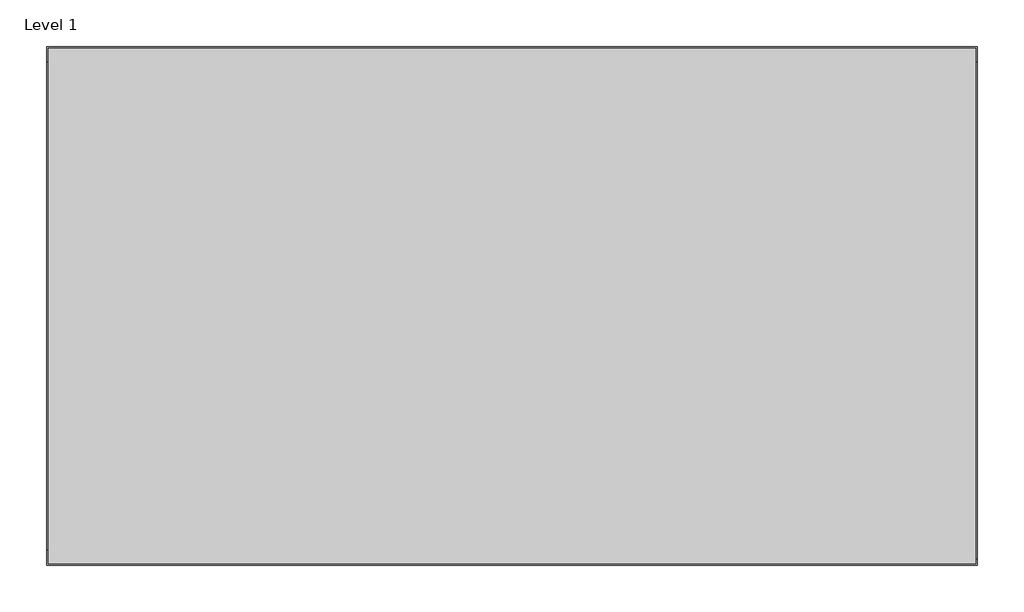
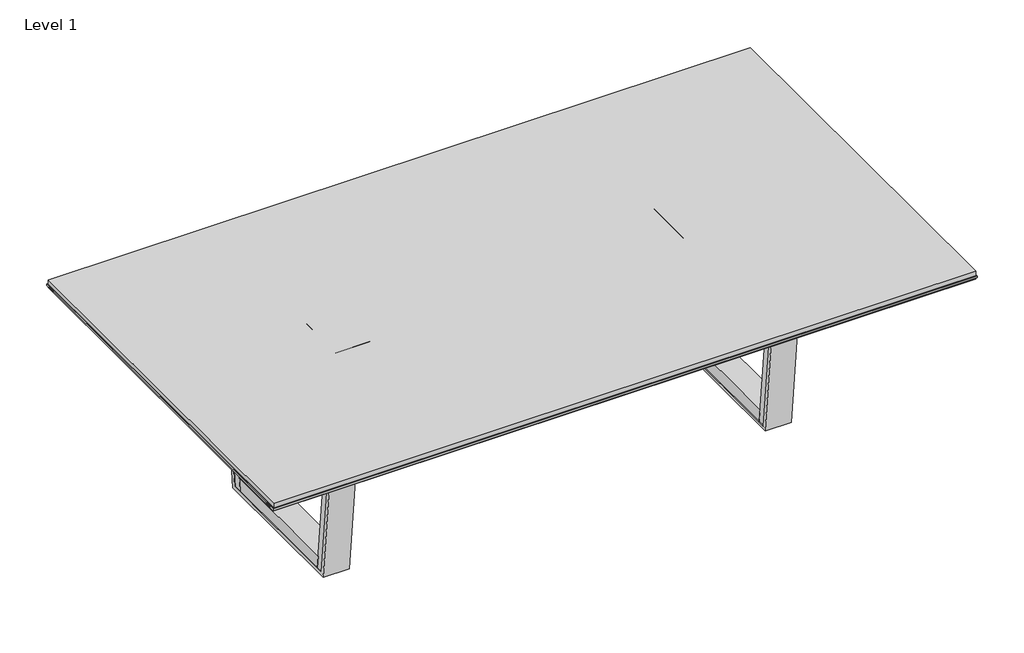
# One storey, incomplete: 9 proxies.
"""IFC4 building model written with IfcOpenShell, lengths in millimetres."""

from ifc_helpers import new_model, si_unit, origin, place, context, project, spatial, transform, mapped, element, save
from components import generic_models_12575e35, generic_models_db46a843, generic_models_fdab1e62, generic_models_194ffc6f, generic_models_caa54cf2

model = new_model("IFC4")

# Units and contexts
model_context = context("Model", 3, world=origin())
ifc_project = project(units=[si_unit("LENGTHUNIT", "METRE", prefix="MILLI")], contexts=[model_context])

# Site, building, storey
site = spatial("IfcSite", under=ifc_project)
building = spatial("IfcBuilding", under=site)
storey = spatial("IfcBuildingStorey", under=building, Name="Level 1", Elevation=0.0)

# Proxies
placement = place(None, origin())
generic_models_shape = generic_models_12575e35(model_context)
element("IfcBuildingElementProxy", 1, Name="IMPRESS^TABLE 7_60x108 LOOP W CHASE-END KEEL CAP", ObjectType="IMPRESS^TABLE 7_60x108 LOOP W CHASE-END KEEL CAP", at=placement, inside=storey, context=model_context, shape_type="MappedRepresentation", body=[
    mapped(generic_models_shape, transform((2266.95, -1126.1105294, 0.0), x_axis=(0.0, 1.0, 0.0), y_axis=(0.0, 0.0, 1.0), z_axis=(1.0, 0.0, 0.0))),
])
element("IfcBuildingElementProxy", 2, Name="IMPRESS^TABLE 7_60x108 LOOP W CHASE-END KEEL CAP", ObjectType="IMPRESS^TABLE 7_60x108 LOOP W CHASE-END KEEL CAP", at=placement, inside=storey, context=model_context, shape_type="MappedRepresentation", body=[
    mapped(generic_models_shape, transform((457.2, -1126.1105294, 0.0), x_axis=(0.0, 1.0, 0.0), y_axis=(0.0, 0.0, 1.0), z_axis=(1.0, 0.0, 0.0))),
])
generic_models_2_shape = generic_models_db46a843(model_context)
element("IfcBuildingElementProxy", 3, Name="IMPRESS^TABLE 7_60x108 LOOP W CHASE-KEEL", ObjectType="IMPRESS^TABLE 7_60x108 LOOP W CHASE-KEEL", at=placement, inside=storey, context=model_context, shape_type="MappedRepresentation", body=[
    mapped(generic_models_2_shape, transform((539.75, -455.0394706, -101.6), x_axis=(1.0, 0.0, 0.0), y_axis=(0.0, 0.0, 1.0), z_axis=(0.0, -1.0, 0.0))),
])
element("IfcBuildingElementProxy", 4, Name="IMPRESS^TABLE 7_60x108 LOOP W CHASE-KEEL", ObjectType="IMPRESS^TABLE 7_60x108 LOOP W CHASE-KEEL", at=placement, inside=storey, context=model_context, shape_type="MappedRepresentation", body=[
    mapped(generic_models_2_shape, transform((539.75, -1037.2105294, -101.6), x_axis=(1.0, 0.0, 0.0), y_axis=(0.0, 0.0, 1.0), z_axis=(0.0, -1.0, 0.0))),
])
generic_models_3_shape = generic_models_fdab1e62(model_context)
element("IfcBuildingElementProxy", 5, Name="IMPRESS^TABLE 7_24in BASE-PARTS SOLID", ObjectType="IMPRESS^TABLE 7_24in BASE-PARTS SOLID", at=placement, inside=storey, context=model_context, shape_type="MappedRepresentation", body=[
    mapped(generic_models_3_shape, transform((558.8, -457.2, -685.8), x_axis=(0.0, -1.0, 0.0), y_axis=(0.0, 0.0, 1.0), z_axis=(-1.0, 0.0, 0.0))),
])
generic_models_4_shape = generic_models_194ffc6f(model_context)
element("IfcBuildingElementProxy", 6, Name="IMPRESS^TABLE 7_60x108 LOOP W CHASE-TOP POWER LID", ObjectType="IMPRESS^TABLE 7_60x108 LOOP W CHASE-TOP POWER LID", at=placement, inside=storey, context=model_context, shape_type="MappedRepresentation", body=[
    mapped(generic_models_4_shape, transform((1983.3941511, -860.425, 44.45), x_axis=(0.0, 1.0, 0.0), y_axis=(0.0, 0.0, 1.0), z_axis=(1.0, 0.0, 0.0))),
])
element("IfcBuildingElementProxy", 7, Name="IMPRESS^TABLE 7_60x108 LOOP W CHASE-TOP POWER LID", ObjectType="IMPRESS^TABLE 7_60x108 LOOP W CHASE-TOP POWER LID", at=placement, inside=storey, context=model_context, shape_type="MappedRepresentation", body=[
    mapped(generic_models_4_shape, transform((759.8058489, -663.575, 44.45), x_axis=(0.0, -1.0, 0.0), y_axis=(0.0, 0.0, 1.0), z_axis=(-1.0, 0.0, 0.0))),
])
element("IfcBuildingElementProxy", 8, Name="IMPRESS^TABLE 7_24in BASE-PARTS SOLID", ObjectType="IMPRESS^TABLE 7_24in BASE-PARTS SOLID", at=placement, inside=storey, context=model_context, shape_type="MappedRepresentation", body=[
    mapped(generic_models_3_shape, transform((2184.4, -1066.8, -685.8), x_axis=(0.0, 1.0, 0.0), y_axis=(0.0, 0.0, 1.0), z_axis=(1.0, 0.0, 0.0))),
])
generic_models_5_shape = generic_models_caa54cf2(model_context)
element("IfcBuildingElementProxy", 9, Name="IMPRESS^TABLE 7_60x108 LOOP W CHASE-TOP PARTS SOLID", ObjectType="IMPRESS^TABLE 7_60x108 LOOP W CHASE-TOP PARTS SOLID", at=placement, inside=storey, context=model_context, shape_type="MappedRepresentation", body=[
    mapped(generic_models_5_shape, transform((0.0, -1524.0, 38.1), x_axis=(1.0, 0.0, 0.0), y_axis=(0.0, 0.0, 1.0), z_axis=(0.0, -1.0, 0.0))),
])

save(model, "model.ifc")
